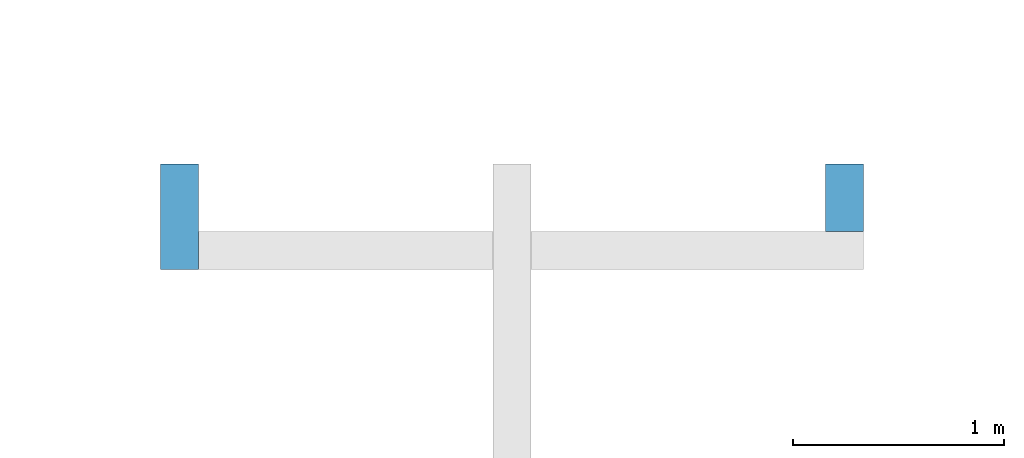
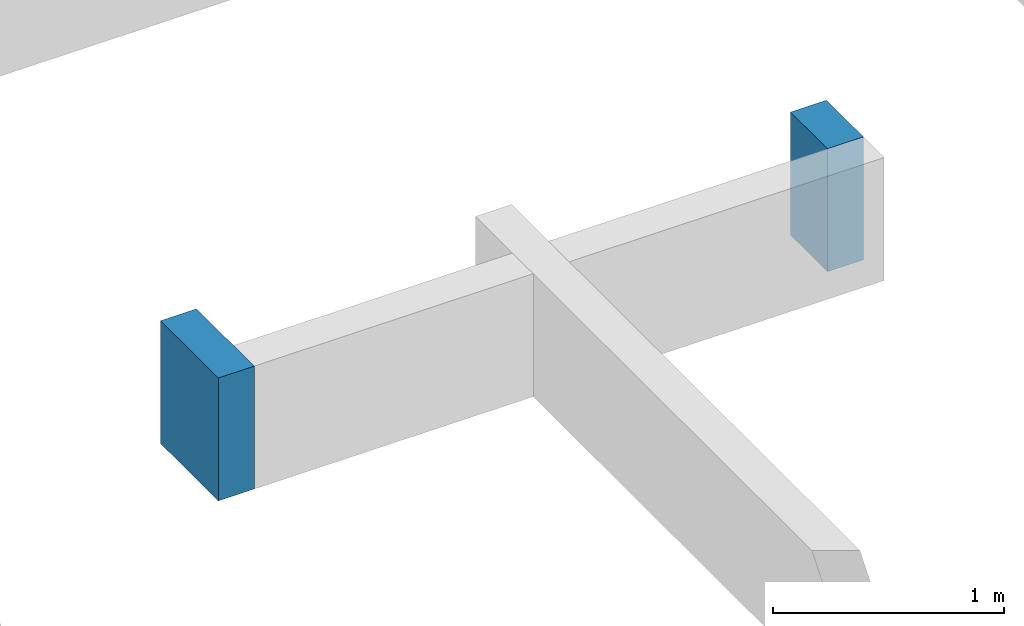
# One storey, part 3 of 6: 2 walls.
"""IFC2X3 building model written with IfcOpenShell, lengths in millimetres."""

import ifcopenshell
import ifcopenshell.guid

model = None  # the IFC model being written
_history = None  # IfcOwnerHistory: only IFC2X3 demands one
_inside = {}  # id of a spatial element -> (the spatial element, [elements in it])
_under = {}  # id of a project, library or spatial element -> (it, [spatial elements below it])
_declared = {}  # id of a project -> (the project, [libraries it declares])
_typed = {}  # id of a type object -> (the type object, [elements of that type])
_made_of = {}  # id of a material, layer set ... -> (it, [elements and type objects made of it])


def new_model(schema):
    """Start an empty IFC model of exactly this schema.

    Asked for "IFC4X3", IfcOpenShell would pick the latest addendum, in which some entities
    have other attributes; the version numbers below select the first issue.
    IFC2X3 requires an IfcOwnerHistory on every rooted entity: one is made here for all.
    """
    global model, _history
    if schema == "IFC4X3":
        model = ifcopenshell.file(schema_version=(4, 3, 0, 0))
    else:
        model = ifcopenshell.file(schema=schema)
    _inside.clear()
    _under.clear()
    _declared.clear()
    _typed.clear()
    _made_of.clear()
    _history = None
    if model.schema == "IFC2X3":
        org = make("IfcOrganization", Name="unknown")
        user = make(
            "IfcPersonAndOrganization",
            ThePerson=make("IfcPerson", FamilyName="unknown"),
            TheOrganization=org,
        )
        app = make(
            "IfcApplication",
            ApplicationDeveloper=org,
            Version="unknown",
            ApplicationFullName="unknown",
            ApplicationIdentifier="unknown",
        )
        _history = make(
            "IfcOwnerHistory",
            OwningUser=user,
            OwningApplication=app,
            ChangeAction="ADDED",
            CreationDate=0,
        )
    return model


def make(cls, **values):
    """One entity of the class cls with the attributes given. An attribute that is None is left unset."""
    return model.create_entity(
        cls, **{name: value for name, value in values.items() if value is not None}
    )


def entity(cls, *values):
    """Any entity or typed value of the class cls, its attributes in the order of the schema. None: left unset."""
    e = model.create_entity(cls)
    for i, value in enumerate(values):
        if value is not None:
            e[i] = value
    return e


def rooted(cls, **values):
    """An entity with a GlobalId (a new one), such as an element, a storey or a relation."""
    return make(cls, GlobalId=ifcopenshell.guid.new(), OwnerHistory=_history, **values)


def si_unit(unit_type, name, prefix=None):
    """IfcSIUnit, for example si_unit("LENGTHUNIT", "METRE", prefix="MILLI")."""
    return make("IfcSIUnit", UnitType=unit_type, Prefix=prefix, Name=name)


def converted_unit(unit_type, name, factor, base, dimensions=None, offset=None):
    """IfcConversionBasedUnit, such as the inch: factor (a typed value) times the base unit."""
    return make(
        "IfcConversionBasedUnit"
        if offset is None
        else "IfcConversionBasedUnitWithOffset",
        ConversionOffset=offset,
        Dimensions=None
        if dimensions is None
        else entity("IfcDimensionalExponents", *dimensions),
        UnitType=unit_type,
        Name=name,
        ConversionFactor=make(
            "IfcMeasureWithUnit", ValueComponent=factor, UnitComponent=base
        ),
    )


def assignment(units):
    """IfcUnitAssignment: the units of a project."""
    return None if units is None else make("IfcUnitAssignment", Units=units)


def point(xyz):
    """IfcCartesianPoint."""
    return None if xyz is None else make("IfcCartesianPoint", Coordinates=xyz)


def direction(xyz):
    """IfcDirection."""
    return None if xyz is None else make("IfcDirection", DirectionRatios=xyz)


def frame(location, z_axis=None, x_axis=None):
    """IfcAxis2Placement3D, a coordinate frame: its origin and axes. An axis left out is left unset."""
    return make(
        "IfcAxis2Placement3D",
        Location=point(location),
        Axis=direction(z_axis),
        RefDirection=direction(x_axis),
    )


def frame_2d(location, x_axis=None):
    """IfcAxis2Placement2D, a coordinate frame in the plane: its origin and x axis."""
    return make(
        "IfcAxis2Placement2D", Location=point(location), RefDirection=direction(x_axis)
    )


def origin():
    """The frame at (0, 0, 0) with its axes left unset."""
    return frame((0.0, 0.0, 0.0))


def origin_with_axes():
    """The frame at (0, 0, 0) with the z axis (0, 0, 1) and the x axis (1, 0, 0) written out."""
    return frame((0.0, 0.0, 0.0), z_axis=(0.0, 0.0, 1.0), x_axis=(1.0, 0.0, 0.0))


def place(relative_to, where):
    """IfcLocalPlacement: puts the frame where relative to a parent placement (None: the world)."""
    return make(
        "IfcLocalPlacement", PlacementRelTo=relative_to, RelativePlacement=where
    )


def context(
    kind, dimensions, precision=None, world=None, true_north=None, identifier=None
):
    """IfcGeometricRepresentationContext, for example the 3D "Model" context."""
    return make(
        "IfcGeometricRepresentationContext",
        ContextIdentifier=identifier,
        ContextType=kind,
        CoordinateSpaceDimension=dimensions,
        Precision=precision,
        WorldCoordinateSystem=world,
        TrueNorth=true_north,
    )


def subcontext(parent, identifier, kind, view, scale=None):
    """IfcGeometricRepresentationSubContext, for example "Body" below "Model"."""
    return make(
        "IfcGeometricRepresentationSubContext",
        ContextIdentifier=identifier,
        ContextType=kind,
        ParentContext=parent,
        TargetScale=scale,
        TargetView=view,
    )


def project(units=None, contexts=None):
    """IfcProject with its units and contexts."""
    return rooted(
        "IfcProject",
        Name="project",
        RepresentationContexts=contexts,
        UnitsInContext=assignment(units),
    )


def spatial(cls, under=None, at=None, **own):
    """A site, building, storey or space (cls), placed at a placement, below another one or the project."""
    s = rooted(cls, ObjectPlacement=at, **own)
    if under is not None:
        _under.setdefault(under.id(), (under, []))[1].append(s)
    return s


def profile(cls, at=None, kind="AREA", **sizes):
    """A parametric profile (cls). Its sizes go by their IFC names, for example OverallWidth=200.0."""
    return make(cls, ProfileType=kind, Position=at, **sizes)


def rectangle(**sizes):
    """IfcRectangleProfileDef."""
    return profile("IfcRectangleProfileDef", **sizes)


def extrude(swept, where, along, depth):
    """IfcExtrudedAreaSolid: the profile swept, set in the frame where, extruded along a direction by depth."""
    return make(
        "IfcExtrudedAreaSolid",
        SweptArea=swept,
        Position=where,
        ExtrudedDirection=direction(along),
        Depth=depth,
    )


def shape(context_of_items, identifier, shape_type, items):
    """IfcShapeRepresentation: the items that make up one representation, for example the "Body"."""
    return make(
        "IfcShapeRepresentation",
        ContextOfItems=context_of_items,
        RepresentationIdentifier=identifier,
        RepresentationType=shape_type,
        Items=items,
    )


def material(Name=None, Category=None):
    """IfcMaterial."""
    return make("IfcMaterial", Name=Name, Category=Category)


def layer(
    of_material, thickness, ventilated=None, Name=None, Category=None, Priority=None
):
    """IfcMaterialLayer: one layer of a wall or slab, of a material (None: an air gap)."""
    return make(
        "IfcMaterialLayer",
        Material=of_material,
        LayerThickness=thickness,
        IsVentilated=ventilated,
        Name=Name,
        Category=Category,
        Priority=Priority,
    )


def layer_set(layers, Name=None):
    """IfcMaterialLayerSet."""
    return make("IfcMaterialLayerSet", MaterialLayers=layers, LayerSetName=Name)


def layer_usage(for_layer_set, set_direction, sense, offset, extent=None):
    """IfcMaterialLayerSetUsage: how a layer set lies in its element."""
    return make(
        "IfcMaterialLayerSetUsage",
        ForLayerSet=for_layer_set,
        LayerSetDirection=set_direction,
        DirectionSense=sense,
        OffsetFromReferenceLine=offset,
        ReferenceExtent=extent,
    )


def made_of(thing, what):
    """Note that an element or type object is made of a material, layer set ...; save() writes the relation."""
    if what is not None:
        _made_of.setdefault(what.id(), (what, []))[1].append(thing)
    return thing


def element(
    cls,
    number,
    at=None,
    inside=None,
    cuts=None,
    type_object=None,
    material=None,
    context=None,
    identifier="Body",
    shape_type=None,
    held_by="IfcProductDefinitionShape",
    body=None,
    shapes=None,
    **own,
):
    """One element of the class cls, such as IfcWall. Its Tag is "e" and its number.

    at: its placement. inside: the storey or other place that contains it. cuts: it is an
    opening in that element (IfcRelVoidsElement). A single representation is given by context,
    identifier, shape_type and body (its items); several are given by shapes. held_by: the class
    of the entity that holds the representations. save() writes the other relations.
    """
    e = rooted(cls, Tag="e%d" % number, ObjectPlacement=at, **own)
    if body is not None:
        shapes = [shape(context, identifier, shape_type, body)]
    if shapes is not None:
        e.Representation = make(held_by, Representations=shapes)
    if inside is not None:
        _inside.setdefault(inside.id(), (inside, []))[1].append(e)
    if cuts is not None:
        rooted(
            "IfcRelVoidsElement", RelatingBuildingElement=cuts, RelatedOpeningElement=e
        )
    if type_object is not None:
        _typed.setdefault(type_object.id(), (type_object, []))[1].append(e)
    return made_of(e, material)


def aggregate(whole, parts):
    """IfcRelAggregates: a whole, such as a stair, and the parts it consists of."""
    return rooted("IfcRelAggregates", RelatingObject=whole, RelatedObjects=parts)


def save(model, path):
    """Write the relations noted so far, then the file.

    IfcRelAggregates (storeys below a building ...), IfcRelContainedInSpatialStructure (elements
    in a storey), IfcRelDefinesByType, IfcRelAssociatesMaterial and IfcRelDeclares: one each for
    every whole, place, type object, material and project.
    """
    for whole, parts in _under.values():
        aggregate(whole, parts)
    for where, things in _inside.values():
        rooted(
            "IfcRelContainedInSpatialStructure",
            RelatedElements=things,
            RelatingStructure=where,
        )
    for kind, things in _typed.values():
        rooted("IfcRelDefinesByType", RelatedObjects=things, RelatingType=kind)
    for what, things in _made_of.values():
        rooted("IfcRelAssociatesMaterial", RelatedObjects=things, RelatingMaterial=what)
    for by, libraries in _declared.values():
        rooted("IfcRelDeclares", RelatingContext=by, RelatedDefinitions=libraries)
    model.write(path)


model = new_model("IFC2X3")

# Units and contexts
model_context = context("Model", 3, precision=1e-05, world=origin())
plan_context = context("Plan", 3, precision=1e-05, world=origin())
body_context = subcontext(model_context, "Body", "Model", "MODEL_VIEW")
ifc_project = project(units=[si_unit("LENGTHUNIT", "METRE", prefix="MILLI"), converted_unit("PLANEANGLEUNIT", "DEGREE", entity("IfcPlaneAngleMeasure", 0.0174532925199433), si_unit("PLANEANGLEUNIT", "RADIAN"), dimensions=[0, 0, 0, 0, 0, 0, 0]), si_unit("AREAUNIT", "SQUARE_METRE"), si_unit("VOLUMEUNIT", "CUBIC_METRE")], contexts=[model_context, plan_context])

# Building, storey
building_placement = place(None, origin())
building = spatial("IfcBuilding", under=ifc_project, at=building_placement, Name="Bâtiment", CompositionType="ELEMENT")
storey_placement = place(building_placement, frame((0.0, 0.0, -850.0), z_axis=(0.0, 0.0, 1.0), x_axis=(1.0, 0.0, 0.0)))
storey = spatial("IfcBuildingStorey", under=building, at=storey_placement, Name="vs", CompositionType="ELEMENT", Elevation=-850.0)

# Walls
ifc_material_1 = material(Name="moellons")
ifc_layer_1 = layer(ifc_material_1, 180.0)
ifc_layer_set_1 = layer_set([ifc_layer_1])
ifc_layer_usage_1 = layer_usage(ifc_layer_set_1, "AXIS2", "POSITIVE", 0.0)
wall_1_placement = place(storey_placement, frame((28229.99951490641, 3220.077765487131, 0.0), z_axis=(0.0, 0.0, 1.0), x_axis=(0.0, 1.0, 0.0)))
element("IfcWallStandardCase", 1, at=wall_1_placement, inside=storey, material=ifc_layer_usage_1, context=body_context, shape_type="SweptSolid", body=[
    extrude(rectangle(XDim=500.0, YDim=180.0, at=frame_2d((250.0, 90.0), x_axis=(1.0, 0.0))), origin_with_axes(), (0.0, 0.0, 1.0), 650.0),
])
ifc_material_2 = material(Name="moellons")
ifc_layer_2 = layer(ifc_material_2, 180.0)
ifc_layer_set_2 = layer_set([ifc_layer_2])
ifc_layer_usage_2 = layer_usage(ifc_layer_set_2, "AXIS2", "POSITIVE", 0.0)
wall_2_placement = place(storey_placement, frame((31199.99951490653, 3720.077765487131, 0.0), z_axis=(0.0, 0.0, 1.0), x_axis=(0.0, -1.0, 0.0)))
element("IfcWallStandardCase", 2, at=wall_2_placement, inside=storey, material=ifc_layer_usage_2, context=body_context, shape_type="SweptSolid", body=[
    extrude(rectangle(XDim=320.0, YDim=180.0, at=frame_2d((160.0, 90.0), x_axis=(1.0, 0.0))), origin_with_axes(), (0.0, 0.0, 1.0), 650.0),
])

save(model, "model.ifc")
